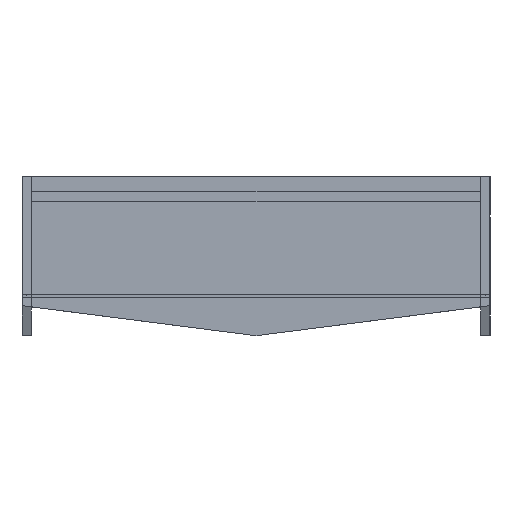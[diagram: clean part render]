
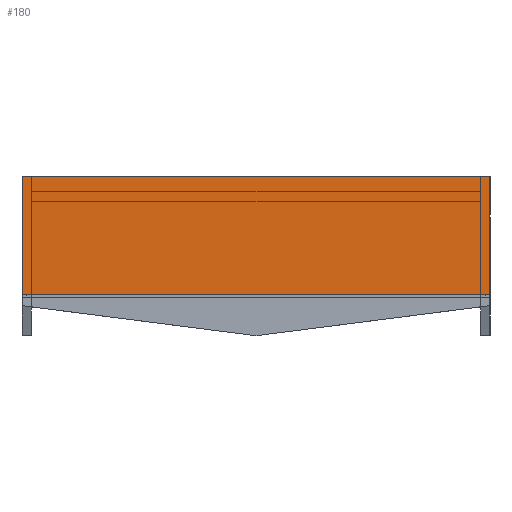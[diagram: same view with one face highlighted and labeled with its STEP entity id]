
A CAD part, left-side view. The second image highlights one B-rep face of the part: STEP entity #180.
In plain terms, the highlighted planar face has unit normal (-1, 0, 0).
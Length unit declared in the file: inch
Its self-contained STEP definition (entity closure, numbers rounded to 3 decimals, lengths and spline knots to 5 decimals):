
#180=ADVANCED_FACE('',(#474),#4626,.T.);
#474=FACE_OUTER_BOUND('',#780,.T.);
#780=EDGE_LOOP('',(#1497,#1498,#1499,#1500));
#1497=ORIENTED_EDGE('',*,*,#2759,.F.);
#1498=ORIENTED_EDGE('',*,*,#2740,.F.);
#1499=ORIENTED_EDGE('',*,*,#2758,.T.);
#1500=ORIENTED_EDGE('',*,*,#2753,.F.);
#2740=EDGE_CURVE('',#4185,#4187,#3496,.T.);
#2753=EDGE_CURVE('',#4194,#4193,#3509,.T.);
#2758=EDGE_CURVE('',#4185,#4193,#3514,.T.);
#2759=EDGE_CURVE('',#4187,#4194,#3515,.T.);
#3496=B_SPLINE_CURVE_WITH_KNOTS('',1,(#6292,#6293),.UNSPECIFIED.,.F.,.F.,
(2,2),(17.00471,40.50471),.UNSPECIFIED.);
#3509=B_SPLINE_CURVE_WITH_KNOTS('',1,(#6320,#6321),.UNSPECIFIED.,.F.,.F.,
(2,2),(-23.5,0.),.UNSPECIFIED.);
#3514=B_SPLINE_CURVE_WITH_KNOTS('',1,(#6330,#6331),.UNSPECIFIED.,.F.,.F.,
(2,2),(0.,5.9375),.UNSPECIFIED.);
#3515=B_SPLINE_CURVE_WITH_KNOTS('',1,(#6332,#6333),.UNSPECIFIED.,.F.,.F.,
(2,2),(0.,5.9375),.UNSPECIFIED.);
#4185=VERTEX_POINT('',#6264);
#4187=VERTEX_POINT('',#6266);
#4193=VERTEX_POINT('',#6272);
#4194=VERTEX_POINT('',#6273);
#4626=PLANE('',#5011);
#5011=AXIS2_PLACEMENT_3D('',#6256,#5309,$);
#5309=DIRECTION('',(-1.,0.,0.));
#6256=CARTESIAN_POINT('',(4601.35836,-238.85911,247.02664));
#6264=CARTESIAN_POINT('',(4601.35836,-215.35911,252.96414));
#6266=CARTESIAN_POINT('',(4601.35836,-238.85911,252.96414));
#6272=CARTESIAN_POINT('',(4601.35836,-215.35911,247.02664));
#6273=CARTESIAN_POINT('',(4601.35836,-238.85911,247.02664));
#6292=CARTESIAN_POINT('',(4601.35836,-215.35911,252.96414));
#6293=CARTESIAN_POINT('',(4601.35836,-238.85911,252.96414));
#6320=CARTESIAN_POINT('',(4601.35836,-238.85911,247.02664));
#6321=CARTESIAN_POINT('',(4601.35836,-215.35911,247.02664));
#6330=CARTESIAN_POINT('',(4601.35836,-215.35911,252.96414));
#6331=CARTESIAN_POINT('',(4601.35836,-215.35911,247.02664));
#6332=CARTESIAN_POINT('',(4601.35836,-238.85911,252.96414));
#6333=CARTESIAN_POINT('',(4601.35836,-238.85911,247.02664));
